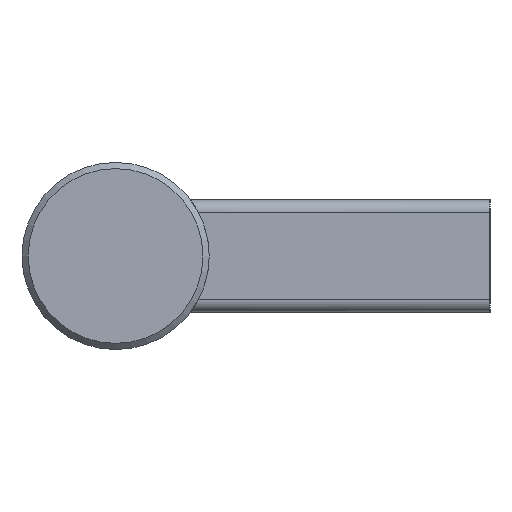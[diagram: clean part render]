
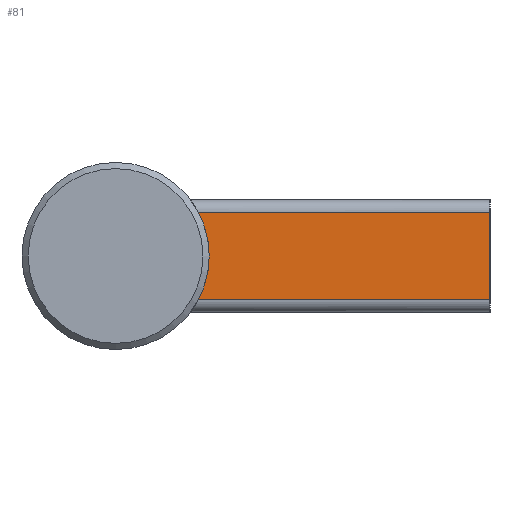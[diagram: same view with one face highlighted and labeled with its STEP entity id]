
A CAD part, left-side view. The second image highlights one B-rep face of the part: STEP entity #81.
In plain terms, the highlighted planar face has unit normal (-1, 0, 0).
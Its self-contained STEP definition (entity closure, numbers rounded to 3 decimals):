
#81 = ADVANCED_FACE( '', ( #121 ), #122, .F. );
#121 = FACE_OUTER_BOUND( '', #186, .T. );
#122 = PLANE( '', #187 );
#186 = EDGE_LOOP( '', ( #280, #281, #282, #283 ) );
#187 = AXIS2_PLACEMENT_3D( '', #284, #285, #286 );
#280 = ORIENTED_EDGE( '', *, *, #453, .F. );
#281 = ORIENTED_EDGE( '', *, *, #444, .T. );
#282 = ORIENTED_EDGE( '', *, *, #455, .T. );
#283 = ORIENTED_EDGE( '', *, *, #456, .T. );
#284 = CARTESIAN_POINT( '', ( -140., 60., -7. ) );
#285 = DIRECTION( '', ( 1., 0., 0. ) );
#286 = DIRECTION( '', ( 0., 0., -1. ) );
#444 = EDGE_CURVE( '', #517, #514, #518, .T. );
#453 = EDGE_CURVE( '', #517, #534, #535, .T. );
#455 = EDGE_CURVE( '', #514, #537, #538, .T. );
#456 = EDGE_CURVE( '', #537, #534, #539, .T. );
#514 = VERTEX_POINT( '', #668 );
#517 = VERTEX_POINT( '', #686 );
#518 = CIRCLE( '', #687, 15. );
#534 = VERTEX_POINT( '', #747 );
#535 = LINE( '', #748, #749 );
#537 = VERTEX_POINT( '', #751 );
#538 = LINE( '', #752, #753 );
#539 = LINE( '', #754, #755 );
#668 = CARTESIAN_POINT( '', ( -140., 46.734, -7. ) );
#686 = CARTESIAN_POINT( '', ( -140., 46.734, 7. ) );
#687 = AXIS2_PLACEMENT_3D( '', #844, #845, #846 );
#747 = CARTESIAN_POINT( '', ( -140., 0., 7. ) );
#748 = CARTESIAN_POINT( '', ( -140., 60., 7. ) );
#749 = VECTOR( '', #856, 1000. );
#751 = CARTESIAN_POINT( '', ( -140., 0., -7. ) );
#752 = CARTESIAN_POINT( '', ( -140., 60., -7. ) );
#753 = VECTOR( '', #860, 1000. );
#754 = CARTESIAN_POINT( '', ( -140., 0., -7. ) );
#755 = VECTOR( '', #861, 1000. );
#844 = CARTESIAN_POINT( '', ( -140., 60., 0. ) );
#845 = DIRECTION( '', ( 1., 0., 0. ) );
#846 = DIRECTION( '', ( 0., 0., -1. ) );
#856 = DIRECTION( '', ( 0., -1., 0. ) );
#860 = DIRECTION( '', ( 0., -1., 0. ) );
#861 = DIRECTION( '', ( 0., 0., 1. ) );
